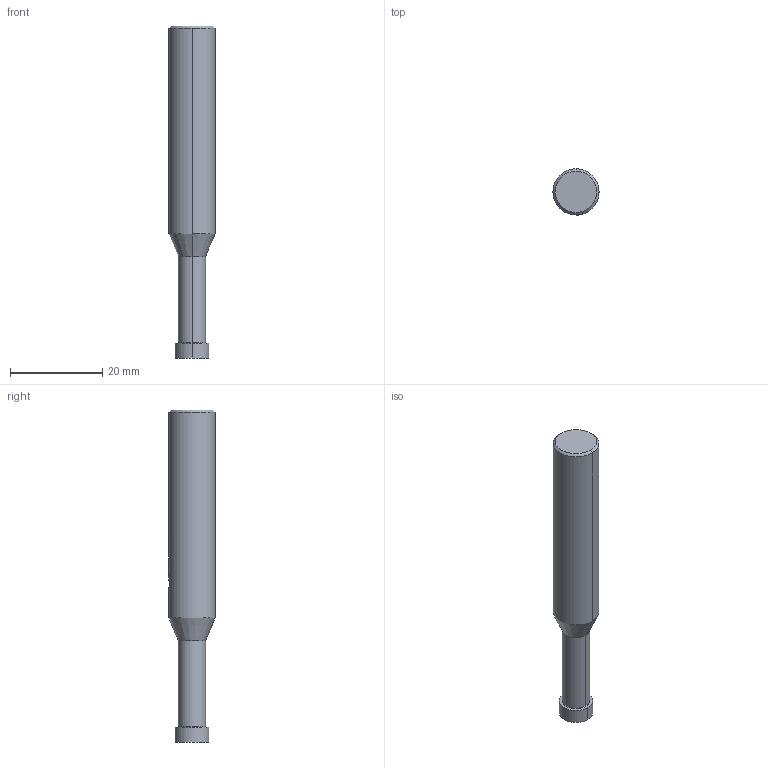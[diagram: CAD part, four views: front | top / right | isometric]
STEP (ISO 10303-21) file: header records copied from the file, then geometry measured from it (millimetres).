
FILE_DESCRIPTION(('no description'),'unknown implementation level');
FILE_NAME('solid7Vv07FCnrltwhTBcPQGSqki_0Kc_1.STP',' ',('CIMSOURCE GmbH'),('CADClick - KiM GmbH - www.kimweb.de'),'unknown preprocess','ACIS','unknown authorization');
FILE_SCHEMA(('automotive_design'));
Length unit declared in the file: millimetre
Products named in the file (2): NOCUT; CUT
Bounding box: 10 x 10 x 72 mm (x, y, z)
Volume: 4434.4 mm3; surface area: 2155.5 mm2
Topology: 2 solids, 2 shells, 30 faces, 69 edges, 44 vertices
Faces by surface type: cylinder 14, plane 10, cone 6
Entity records: 1944 total; most frequent: CARTESIAN_POINT 400, DIRECTION 153, STYLED_ITEM 145, PRESENTATION_STYLE_ASSIGNMENT 145, COLOUR_RGB 145, ORIENTED_EDGE 138, EDGE_CURVE 69, CURVE_STYLE 69
